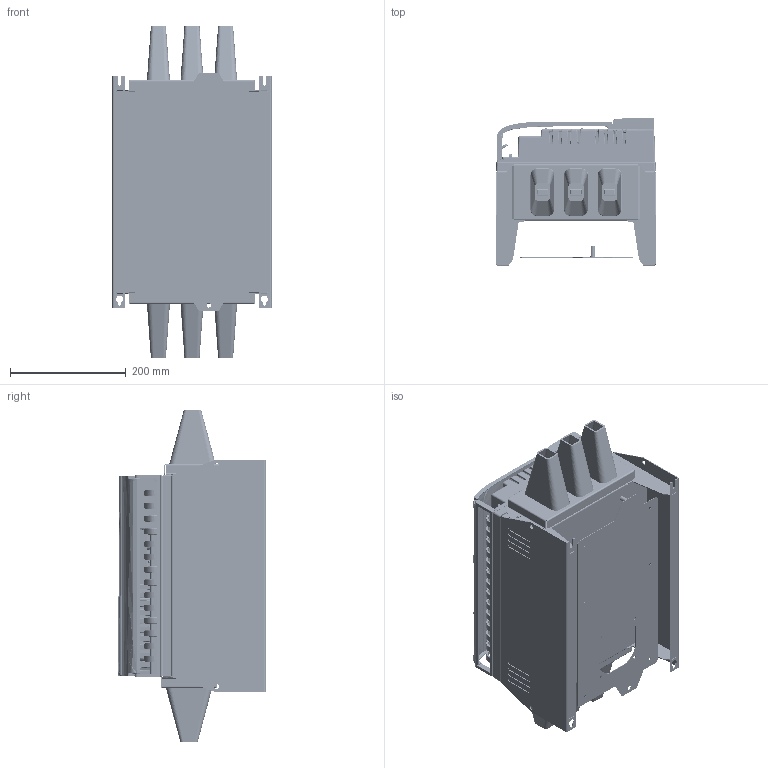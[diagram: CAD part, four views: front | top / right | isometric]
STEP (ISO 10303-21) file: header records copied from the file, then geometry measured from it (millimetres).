
FILE_DESCRIPTION (( 'STEP AP214' ), '1' );
FILE_NAME ('722-13711-00B (With Finger Guards).STEP', '2012-01-19T02:53:40', ( 'Mech Eng Contractor' ), ( 'AuCom Electronics Ltd' ), 'SwSTEP 2.0', 'SolidWorks 2010', '' );
FILE_SCHEMA (( 'AUTOMOTIVE_DESIGN' ));
Length unit declared in the file: millimetre
Products named in the file (1): 722-13711-00B (With Finger Guards)
Bounding box: 275.51 x 254.75 x 573 mm (x, y, z)
Volume: 10029709.2 mm3; surface area: 1825114.9 mm2
Topology: 22 solids, 32 shells, 10679 faces, 26447 edges, 16016 vertices
Faces by surface type: plane 3674, bspline 2699, cylinder 2307, torus 919, cone 705, sphere 375
Entity records: 541497 total; most frequent: CARTESIAN_POINT 192422, ORIENTED_EDGE 52098, DIRECTION 42395, EDGE_CURVE 26049, VERTEX_POINT 16016, AXIS2_PLACEMENT_3D 14912, LINE 12571, VECTOR 12571
